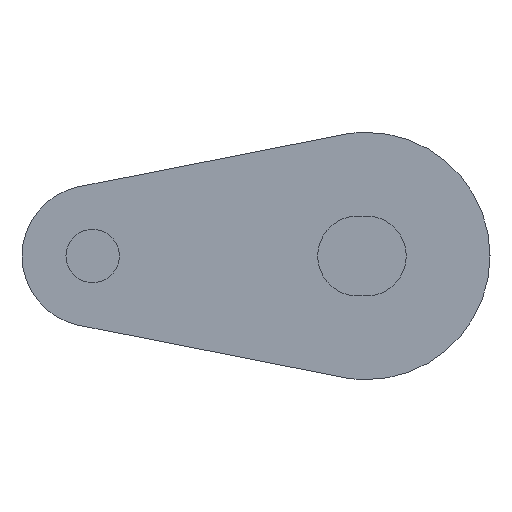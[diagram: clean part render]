
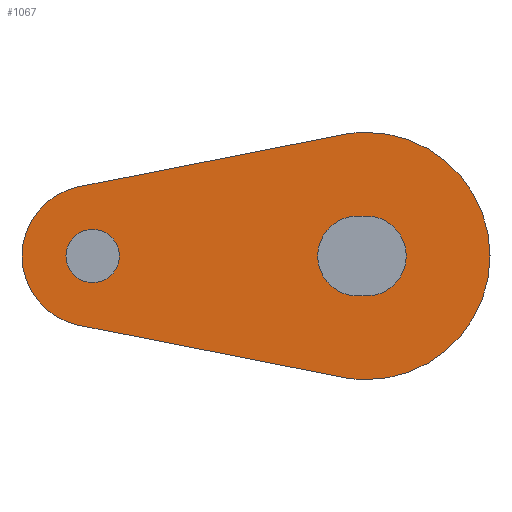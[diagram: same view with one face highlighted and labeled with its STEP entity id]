
A CAD part, left-side view. The second image highlights one B-rep face of the part: STEP entity #1067.
In plain terms, the highlighted planar face has unit normal (-1, 0, 0).
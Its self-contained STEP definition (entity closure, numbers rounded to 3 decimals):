
#15 = CIRCLE ( 'NONE', #441, 7. ) ;
#18 = CIRCLE ( 'NONE', #306, 1.51 ) ;
#32 = LINE ( 'NONE', #531, #98 ) ;
#39 = CIRCLE ( 'NONE', #324, 1.51 ) ;
#40 = LINE ( 'NONE', #634, #45 ) ;
#45 = VECTOR ( 'NONE', #610, 1000. ) ;
#51 = CIRCLE ( 'NONE', #331, 7. ) ;
#62 = ORIENTED_EDGE ( 'NONE', *, *, #348, .F. ) ;
#65 = ORIENTED_EDGE ( 'NONE', *, *, #366, .F. ) ;
#67 = ORIENTED_EDGE ( 'NONE', *, *, #393, .F. ) ;
#68 = ORIENTED_EDGE ( 'NONE', *, *, #376, .F. ) ;
#69 = ORIENTED_EDGE ( 'NONE', *, *, #412, .F. ) ;
#79 = ORIENTED_EDGE ( 'NONE', *, *, #345, .F. ) ;
#86 = CIRCLE ( 'NONE', #448, 7. ) ;
#98 = VECTOR ( 'NONE', #460, 1000. ) ;
#131 = ORIENTED_EDGE ( 'NONE', *, *, #390, .T. ) ;
#183 = ORIENTED_EDGE ( 'NONE', *, *, #375, .T. ) ;
#224 = EDGE_LOOP ( 'NONE', ( #244, #232, #252, #253 ) ) ;
#232 = ORIENTED_EDGE ( 'NONE', *, *, #450, .T. ) ;
#244 = ORIENTED_EDGE ( 'NONE', *, *, #442, .T. ) ;
#252 = ORIENTED_EDGE ( 'NONE', *, *, #418, .T. ) ;
#253 = ORIENTED_EDGE ( 'NONE', *, *, #414, .T. ) ;
#257 = EDGE_LOOP ( 'NONE', ( #69, #68, #62, #65, #67, #79 ) ) ;
#258 = EDGE_LOOP ( 'NONE', ( #183, #131 ) ) ;
#288 = LINE ( 'NONE', #920, #941 ) ;
#306 = AXIS2_PLACEMENT_3D ( 'NONE', #572, #601, #600 ) ;
#324 = AXIS2_PLACEMENT_3D ( 'NONE', #618, #619, #620 ) ;
#328 = AXIS2_PLACEMENT_3D ( 'NONE', #585, #912, #918 ) ;
#331 = AXIS2_PLACEMENT_3D ( 'NONE', #568, #640, #641 ) ;
#345 = EDGE_CURVE ( 'NONE', #488, #493, #32, .T. ) ;
#348 = EDGE_CURVE ( 'NONE', #506, #487, #86, .T. ) ;
#353 = AXIS2_PLACEMENT_3D ( 'NONE', #914, #689, #785 ) ;
#366 = EDGE_CURVE ( 'NONE', #497, #506, #51, .T. ) ;
#375 = EDGE_CURVE ( 'NONE', #468, #528, #39, .T. ) ;
#376 = EDGE_CURVE ( 'NONE', #487, #472, #40, .T. ) ;
#390 = EDGE_CURVE ( 'NONE', #528, #468, #18, .T. ) ;
#393 = EDGE_CURVE ( 'NONE', #493, #497, #15, .T. ) ;
#396 = AXIS2_PLACEMENT_3D ( 'NONE', #756, #686, #878 ) ;
#412 = EDGE_CURVE ( 'NONE', #472, #488, #936, .T. ) ;
#414 = EDGE_CURVE ( 'NONE', #501, #549, #288, .T. ) ;
#418 = EDGE_CURVE ( 'NONE', #553, #501, #945, .T. ) ;
#420 = AXIS2_PLACEMENT_3D ( 'NONE', #840, #847, #829 ) ;
#441 = AXIS2_PLACEMENT_3D ( 'NONE', #605, #596, #595 ) ;
#442 = EDGE_CURVE ( 'NONE', #549, #534, #923, .T. ) ;
#448 = AXIS2_PLACEMENT_3D ( 'NONE', #494, #495, #492 ) ;
#450 = EDGE_CURVE ( 'NONE', #534, #553, #930, .T. ) ;
#460 = DIRECTION ( 'NONE',  ( 0., -0.981, 0.194 ) ) ;
#468 = VERTEX_POINT ( 'NONE', #890 ) ;
#472 = VERTEX_POINT ( 'NONE', #887 ) ;
#487 = VERTEX_POINT ( 'NONE', #772 ) ;
#488 = VERTEX_POINT ( 'NONE', #773 ) ;
#492 = DIRECTION ( 'NONE',  ( 0., 0., -1. ) ) ;
#493 = VERTEX_POINT ( 'NONE', #661 ) ;
#494 = CARTESIAN_POINT ( 'NONE',  ( -95., 0., 0. ) ) ;
#495 = DIRECTION ( 'NONE',  ( 1., 0., 0. ) ) ;
#497 = VERTEX_POINT ( 'NONE', #766 ) ;
#501 = VERTEX_POINT ( 'NONE', #877 ) ;
#506 = VERTEX_POINT ( 'NONE', #815 ) ;
#528 = VERTEX_POINT ( 'NONE', #797 ) ;
#531 = CARTESIAN_POINT ( 'NONE',  ( -95., 16.274, 3.924 ) ) ;
#534 = VERTEX_POINT ( 'NONE', #798 ) ;
#549 = VERTEX_POINT ( 'NONE', #781 ) ;
#553 = VERTEX_POINT ( 'NONE', #894 ) ;
#568 = CARTESIAN_POINT ( 'NONE',  ( -95., 0., 0. ) ) ;
#572 = CARTESIAN_POINT ( 'NONE',  ( -95., 15.5, 0. ) ) ;
#585 = CARTESIAN_POINT ( 'NONE',  ( -95., 15.5, 0. ) ) ;
#595 = DIRECTION ( 'NONE',  ( 0., 0., -1. ) ) ;
#596 = DIRECTION ( 'NONE',  ( 1., 0., 0. ) ) ;
#600 = DIRECTION ( 'NONE',  ( 0., 0., -1. ) ) ;
#601 = DIRECTION ( 'NONE',  ( 1., 0., 0. ) ) ;
#605 = CARTESIAN_POINT ( 'NONE',  ( -95., 0., 0. ) ) ;
#610 = DIRECTION ( 'NONE',  ( 0., 0.981, 0.194 ) ) ;
#618 = CARTESIAN_POINT ( 'NONE',  ( -95., 15.5, 0. ) ) ;
#619 = DIRECTION ( 'NONE',  ( 1., 0., 0. ) ) ;
#620 = DIRECTION ( 'NONE',  ( 0., 0., -1. ) ) ;
#634 = CARTESIAN_POINT ( 'NONE',  ( -95., 1.355, -6.868 ) ) ;
#640 = DIRECTION ( 'NONE',  ( 1., 0., 0. ) ) ;
#641 = DIRECTION ( 'NONE',  ( 0., 0., -1. ) ) ;
#661 = CARTESIAN_POINT ( 'NONE',  ( -95., 1.355, 6.868 ) ) ;
#686 = DIRECTION ( 'NONE',  ( 1., 0., 0. ) ) ;
#689 = DIRECTION ( 'NONE',  ( 1., 0., 0. ) ) ;
#756 = CARTESIAN_POINT ( 'NONE',  ( -95., 0.5, 0. ) ) ;
#766 = CARTESIAN_POINT ( 'NONE',  ( -95., 0., 7. ) ) ;
#772 = CARTESIAN_POINT ( 'NONE',  ( -95., 1.355, -6.868 ) ) ;
#773 = CARTESIAN_POINT ( 'NONE',  ( -95., 16.274, 3.924 ) ) ;
#781 = CARTESIAN_POINT ( 'NONE',  ( -95., 0.5, -2.26 ) ) ;
#785 = DIRECTION ( 'NONE',  ( 0., 0., -1. ) ) ;
#797 = CARTESIAN_POINT ( 'NONE',  ( -95., 15.5, 1.51 ) ) ;
#798 = CARTESIAN_POINT ( 'NONE',  ( -95., 0.5, 2.26 ) ) ;
#815 = CARTESIAN_POINT ( 'NONE',  ( -95., 0., -7. ) ) ;
#829 = DIRECTION ( 'NONE',  ( 0., 0., -1. ) ) ;
#840 = CARTESIAN_POINT ( 'NONE',  ( -95., 15.5, 0. ) ) ;
#841 = PLANE ( 'NONE',  #420 ) ;
#847 = DIRECTION ( 'NONE',  ( -1., 0., 0. ) ) ;
#876 = DIRECTION ( 'NONE',  ( 0., 1., 0. ) ) ;
#877 = CARTESIAN_POINT ( 'NONE',  ( -95., 0., -2.26 ) ) ;
#878 = DIRECTION ( 'NONE',  ( 0., 0., -1. ) ) ;
#887 = CARTESIAN_POINT ( 'NONE',  ( -95., 16.274, -3.924 ) ) ;
#890 = CARTESIAN_POINT ( 'NONE',  ( -95., 15.5, -1.51 ) ) ;
#894 = CARTESIAN_POINT ( 'NONE',  ( -95., 0., 2.26 ) ) ;
#907 = DIRECTION ( 'NONE',  ( 0., -1., 0. ) ) ;
#912 = DIRECTION ( 'NONE',  ( 1., 0., 0. ) ) ;
#914 = CARTESIAN_POINT ( 'NONE',  ( -95., 0., 0. ) ) ;
#916 = CARTESIAN_POINT ( 'NONE',  ( -95., 0.5, 2.26 ) ) ;
#918 = DIRECTION ( 'NONE',  ( 0., 0., -1. ) ) ;
#920 = CARTESIAN_POINT ( 'NONE',  ( -95., 0.5, -2.26 ) ) ;
#923 = CIRCLE ( 'NONE', #396, 2.26 ) ;
#930 = LINE ( 'NONE', #916, #1030 ) ;
#936 = CIRCLE ( 'NONE', #328, 4. ) ;
#941 = VECTOR ( 'NONE', #876, 1000. ) ;
#945 = CIRCLE ( 'NONE', #353, 2.26 ) ;
#961 = FACE_OUTER_BOUND ( 'NONE', #257, .T. ) ;
#965 = FACE_BOUND ( 'NONE', #224, .T. ) ;
#968 = FACE_BOUND ( 'NONE', #258, .T. ) ;
#1030 = VECTOR ( 'NONE', #907, 1000. ) ;
#1067 = ADVANCED_FACE ( 'NONE', ( #965, #968, #961 ), #841, .T. ) ;
